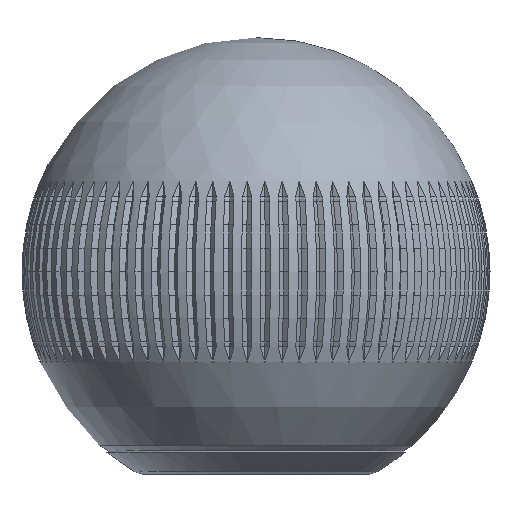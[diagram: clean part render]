
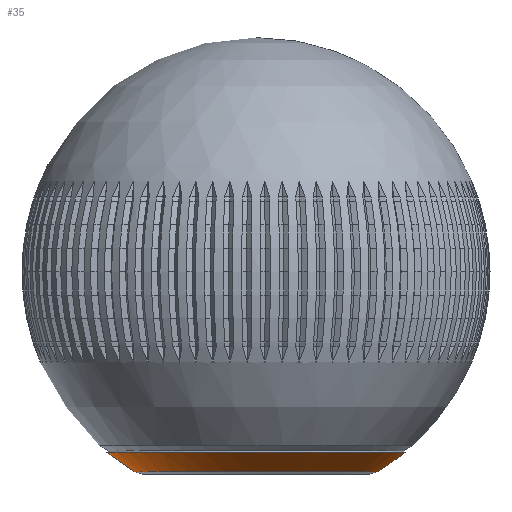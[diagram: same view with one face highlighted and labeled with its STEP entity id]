
A CAD part, front view. The second image highlights one B-rep face of the part: STEP entity #35.
In plain terms, the highlighted spherical face has radius 10 mm.
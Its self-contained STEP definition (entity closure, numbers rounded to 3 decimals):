
#35 = ADVANCED_FACE('',(#36),#51,.T.);
#36 = FACE_BOUND('',#37,.T.);
#37 = EDGE_LOOP('',(#38,#69,#165,#166));
#38 = ORIENTED_EDGE('',*,*,#39,.F.);
#39 = EDGE_CURVE('',#40,#42,#44,.T.);
#40 = VERTEX_POINT('',#41);
#41 = CARTESIAN_POINT('',(5.172,0.,0.102));
#42 = VERTEX_POINT('',#43);
#43 = CARTESIAN_POINT('',(6.368,0.,
    0.95));
#44 = SEAM_CURVE('',#45,(#50,#62),.PCURVE_S1.);
#45 = CIRCLE('',#46,10.);
#46 = AXIS2_PLACEMENT_3D('',#47,#48,#49);
#47 = CARTESIAN_POINT('',(0.,0.,8.66));
#48 = DIRECTION('',(0.,-1.,0.));
#49 = DIRECTION('',(1.,0.,0.));
#50 = PCURVE('',#51,#56);
#51 = SPHERICAL_SURFACE('',#52,10.);
#52 = AXIS2_PLACEMENT_3D('',#53,#54,#55);
#53 = CARTESIAN_POINT('',(0.,0.,8.66));
#54 = DIRECTION('',(0.,0.,1.));
#55 = DIRECTION('',(1.,0.,-0.));
#56 = DEFINITIONAL_REPRESENTATION('',(#57),#61);
#57 = LINE('',#58,#59);
#58 = CARTESIAN_POINT('',(0.,-6.283));
#59 = VECTOR('',#60,1.);
#60 = DIRECTION('',(0.,1.));
#61 = ( GEOMETRIC_REPRESENTATION_CONTEXT(2) 
PARAMETRIC_REPRESENTATION_CONTEXT() REPRESENTATION_CONTEXT('2D SPACE',''
  ) );
#62 = PCURVE('',#51,#63);
#63 = DEFINITIONAL_REPRESENTATION('',(#64),#68);
#64 = LINE('',#65,#66);
#65 = CARTESIAN_POINT('',(6.283,-6.283));
#66 = VECTOR('',#67,1.);
#67 = DIRECTION('',(0.,1.));
#68 = ( GEOMETRIC_REPRESENTATION_CONTEXT(2) 
PARAMETRIC_REPRESENTATION_CONTEXT() REPRESENTATION_CONTEXT('2D SPACE',''
  ) );
#69 = ORIENTED_EDGE('',*,*,#70,.T.);
#70 = EDGE_CURVE('',#40,#40,#71,.T.);
#71 = SURFACE_CURVE('',#72,(#93,#117),.PCURVE_S1.);
#72 = B_SPLINE_CURVE_WITH_KNOTS('',10,(#73,#74,#75,#76,#77,#78,#79,#80,
    #81,#82,#83,#84,#85,#86,#87,#88,#89,#90,#91,#92),.UNSPECIFIED.,.T.,
  .F.,(11,9,11),(0.,15.708,31.416),
  .UNSPECIFIED.);
#73 = CARTESIAN_POINT('',(5.172,0.,0.102));
#74 = CARTESIAN_POINT('',(5.172,1.601,0.102)
  );
#75 = CARTESIAN_POINT('',(4.621,3.227,0.102));
#76 = CARTESIAN_POINT('',(3.492,4.649,0.102)
  );
#77 = CARTESIAN_POINT('',(1.873,5.618,0.102)
  );
#78 = CARTESIAN_POINT('',(-0.001,5.948,
    0.102));
#79 = CARTESIAN_POINT('',(-1.868,5.61,0.102)
  );
#80 = CARTESIAN_POINT('',(-3.471,4.652,0.102)
  );
#81 = CARTESIAN_POINT('',(-4.605,3.25,0.102)
  );
#82 = CARTESIAN_POINT('',(-5.172,1.625,0.102)
  );
#83 = CARTESIAN_POINT('',(-5.172,-1.625,0.102)
  );
#84 = CARTESIAN_POINT('',(-4.605,-3.25,0.102
    ));
#85 = CARTESIAN_POINT('',(-3.471,-4.652,0.102
    ));
#86 = CARTESIAN_POINT('',(-1.868,-5.61,0.102
    ));
#87 = CARTESIAN_POINT('',(-0.001,-5.948,
    0.102));
#88 = CARTESIAN_POINT('',(1.873,-5.618,0.102)
  );
#89 = CARTESIAN_POINT('',(3.492,-4.649,0.102)
  );
#90 = CARTESIAN_POINT('',(4.621,-3.227,0.102)
  );
#91 = CARTESIAN_POINT('',(5.172,-1.601,0.102)
  );
#92 = CARTESIAN_POINT('',(5.172,0.,
    0.102));
#93 = PCURVE('',#51,#94);
#94 = DEFINITIONAL_REPRESENTATION('',(#95),#116);
#95 = B_SPLINE_CURVE_WITH_KNOTS('',10,(#96,#97,#98,#99,#100,#101,#102,
    #103,#104,#105,#106,#107,#108,#109,#110,#111,#112,#113,#114,#115),
  .UNSPECIFIED.,.F.,.F.,(11,9,11),(0.,15.708,
    31.416),.UNSPECIFIED.);
#96 = CARTESIAN_POINT('',(0.,-1.027));
#97 = CARTESIAN_POINT('',(0.31,-1.027));
#98 = CARTESIAN_POINT('',(0.624,-1.027));
#99 = CARTESIAN_POINT('',(0.94,-1.027));
#100 = CARTESIAN_POINT('',(1.256,-1.027));
#101 = CARTESIAN_POINT('',(1.571,-1.027));
#102 = CARTESIAN_POINT('',(1.885,-1.027));
#103 = CARTESIAN_POINT('',(2.199,-1.027));
#104 = CARTESIAN_POINT('',(2.513,-1.027));
#105 = CARTESIAN_POINT('',(2.827,-1.027));
#106 = CARTESIAN_POINT('',(3.456,-1.027));
#107 = CARTESIAN_POINT('',(3.77,-1.027));
#108 = CARTESIAN_POINT('',(4.084,-1.027));
#109 = CARTESIAN_POINT('',(4.398,-1.027));
#110 = CARTESIAN_POINT('',(4.713,-1.027));
#111 = CARTESIAN_POINT('',(5.027,-1.027));
#112 = CARTESIAN_POINT('',(5.343,-1.027));
#113 = CARTESIAN_POINT('',(5.659,-1.027));
#114 = CARTESIAN_POINT('',(5.974,-1.027));
#115 = CARTESIAN_POINT('',(6.283,-1.027));
#116 = ( GEOMETRIC_REPRESENTATION_CONTEXT(2) 
PARAMETRIC_REPRESENTATION_CONTEXT() REPRESENTATION_CONTEXT('2D SPACE',''
  ) );
#117 = PCURVE('',#118,#159);
#118 = B_SPLINE_SURFACE_WITH_KNOTS('',1,10,(
    (#119,#120,#121,#122,#123,#124,#125,#126,#127,#128,#129,#130,#131
      ,#132,#133,#134,#135,#136,#137,#138)
    ,(#139,#140,#141,#142,#143,#144,#145,#146,#147,#148,#149,#150,#151
      ,#152,#153,#154,#155,#156,#157,#158
    )),.UNSPECIFIED.,.F.,.T.,.F.,(2,2),(11,9,11),(0.,31.416),(
    0.,15.708,31.416),.UNSPECIFIED.);
#119 = CARTESIAN_POINT('',(5.172,0.,0.102));
#120 = CARTESIAN_POINT('',(5.172,1.601,0.102)
  );
#121 = CARTESIAN_POINT('',(4.621,3.227,0.102)
  );
#122 = CARTESIAN_POINT('',(3.492,4.649,0.102)
  );
#123 = CARTESIAN_POINT('',(1.873,5.618,0.102)
  );
#124 = CARTESIAN_POINT('',(-0.001,5.948,
    0.102));
#125 = CARTESIAN_POINT('',(-1.868,5.61,0.102
    ));
#126 = CARTESIAN_POINT('',(-3.471,4.652,0.102
    ));
#127 = CARTESIAN_POINT('',(-4.605,3.25,0.102
    ));
#128 = CARTESIAN_POINT('',(-5.172,1.625,0.102)
  );
#129 = CARTESIAN_POINT('',(-5.172,-1.625,0.102
    ));
#130 = CARTESIAN_POINT('',(-4.605,-3.25,
    0.102));
#131 = CARTESIAN_POINT('',(-3.471,-4.652,
    0.102));
#132 = CARTESIAN_POINT('',(-1.868,-5.61,
    0.102));
#133 = CARTESIAN_POINT('',(-0.001,-5.948,
    0.102));
#134 = CARTESIAN_POINT('',(1.873,-5.618,0.102
    ));
#135 = CARTESIAN_POINT('',(3.492,-4.649,0.102
    ));
#136 = CARTESIAN_POINT('',(4.621,-3.227,0.102)
  );
#137 = CARTESIAN_POINT('',(5.172,-1.601,0.102
    ));
#138 = CARTESIAN_POINT('',(5.172,0.,
    0.102));
#139 = CARTESIAN_POINT('',(4.8,0.,0.));
#140 = CARTESIAN_POINT('',(4.8,1.486,0.));
#141 = CARTESIAN_POINT('',(4.289,2.995,0.));
#142 = CARTESIAN_POINT('',(3.24,4.314,0.));
#143 = CARTESIAN_POINT('',(1.738,5.213,0.));
#144 = CARTESIAN_POINT('',(-0.001,5.52,0.));
#145 = CARTESIAN_POINT('',(-1.734,5.206,0.));
#146 = CARTESIAN_POINT('',(-3.221,4.317,0.));
#147 = CARTESIAN_POINT('',(-4.274,3.016,0.));
#148 = CARTESIAN_POINT('',(-4.8,1.508,0.));
#149 = CARTESIAN_POINT('',(-4.8,-1.508,0.));
#150 = CARTESIAN_POINT('',(-4.274,-3.016,0.));
#151 = CARTESIAN_POINT('',(-3.221,-4.317,0.));
#152 = CARTESIAN_POINT('',(-1.734,-5.206,0.));
#153 = CARTESIAN_POINT('',(-0.001,-5.52,0.));
#154 = CARTESIAN_POINT('',(1.738,-5.213,0.));
#155 = CARTESIAN_POINT('',(3.24,-4.314,0.));
#156 = CARTESIAN_POINT('',(4.289,-2.995,0.));
#157 = CARTESIAN_POINT('',(4.8,-1.486,0.));
#158 = CARTESIAN_POINT('',(4.8,0.,0.));
#159 = DEFINITIONAL_REPRESENTATION('',(#160),#164);
#160 = LINE('',#161,#162);
#161 = CARTESIAN_POINT('',(0.,0.));
#162 = VECTOR('',#163,1.);
#163 = DIRECTION('',(0.,1.));
#164 = ( GEOMETRIC_REPRESENTATION_CONTEXT(2) 
PARAMETRIC_REPRESENTATION_CONTEXT() REPRESENTATION_CONTEXT('2D SPACE',''
  ) );
#165 = ORIENTED_EDGE('',*,*,#39,.T.);
#166 = ORIENTED_EDGE('',*,*,#167,.F.);
#167 = EDGE_CURVE('',#42,#42,#168,.T.);
#168 = SURFACE_CURVE('',#169,(#174,#181),.PCURVE_S1.);
#169 = CIRCLE('',#170,6.368);
#170 = AXIS2_PLACEMENT_3D('',#171,#172,#173);
#171 = CARTESIAN_POINT('',(0.,0.,0.95));
#172 = DIRECTION('',(0.,0.,1.));
#173 = DIRECTION('',(0.,-1.,0.));
#174 = PCURVE('',#51,#175);
#175 = DEFINITIONAL_REPRESENTATION('',(#176),#180);
#176 = LINE('',#177,#178);
#177 = CARTESIAN_POINT('',(-1.571,-0.88));
#178 = VECTOR('',#179,1.);
#179 = DIRECTION('',(1.,0.));
#180 = ( GEOMETRIC_REPRESENTATION_CONTEXT(2) 
PARAMETRIC_REPRESENTATION_CONTEXT() REPRESENTATION_CONTEXT('2D SPACE',''
  ) );
#181 = PCURVE('',#182,#187);
#182 = CONICAL_SURFACE('',#183,6.728,1.064);
#183 = AXIS2_PLACEMENT_3D('',#184,#185,#186);
#184 = CARTESIAN_POINT('',(0.,0.,0.75));
#185 = DIRECTION('',(-0.,-0.,-1.));
#186 = DIRECTION('',(1.,0.,-0.));
#187 = DEFINITIONAL_REPRESENTATION('',(#188),#192);
#188 = LINE('',#189,#190);
#189 = CARTESIAN_POINT('',(1.571,-0.2));
#190 = VECTOR('',#191,1.);
#191 = DIRECTION('',(-1.,-0.));
#192 = ( GEOMETRIC_REPRESENTATION_CONTEXT(2) 
PARAMETRIC_REPRESENTATION_CONTEXT() REPRESENTATION_CONTEXT('2D SPACE',''
  ) );
